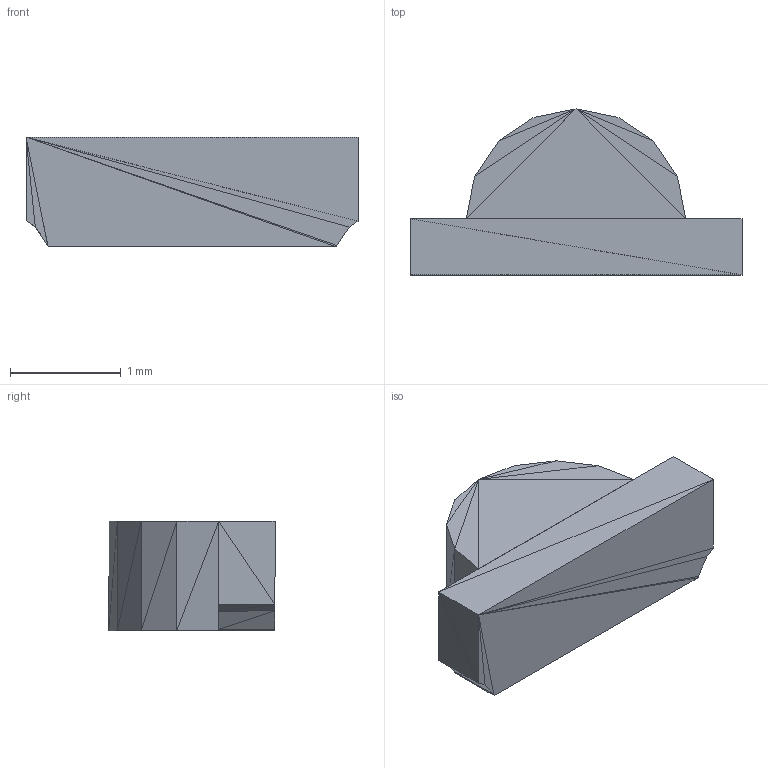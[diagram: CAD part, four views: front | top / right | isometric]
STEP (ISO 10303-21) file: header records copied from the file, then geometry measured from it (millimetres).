
FILE_DESCRIPTION(('HOOPS Exchange Step'),'2;1');
FILE_NAME('***.stp');
FILE_SCHEMA( ('AP242_MANAGED_MODEL_BASED_3D_ENGINEERING_MIM_LF {1 0 10303 442 1 1 4 }') );
Length unit declared in the file: inch
Products named in the file (3): APFA3011AK13F_2; APFA3011AK13F_3; APFA3011AK13F
Assembly tree (2 placements, depth 2):
  APFA3011AK13F
    APFA3011AK13F_2
    APFA3011AK13F_3
Bounding box: 3 x 1.5 x 0.99 mm (x, y, z)
Volume: 3 mm3; surface area: 17.8 mm2
Topology: 2 solids, 2 shells, 70 faces, 105 edges, 39 vertices
Faces by surface type: plane 70
Entity records: 1501 total; most frequent: DIRECTION 257, CARTESIAN_POINT 220, ORIENTED_EDGE 210, VECTOR 105, LINE 105, EDGE_CURVE 105, AXIS2_PLACEMENT_3D 76, PLANE 70
